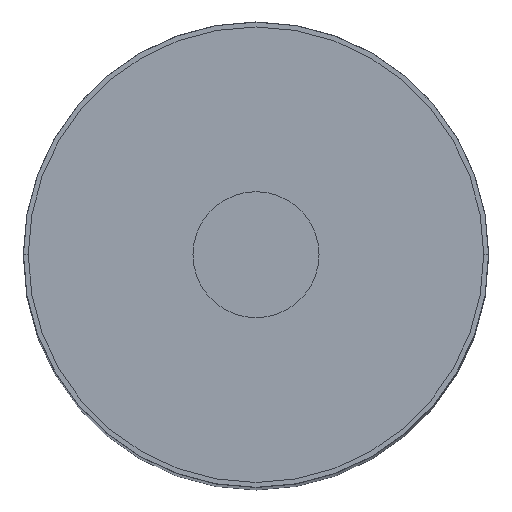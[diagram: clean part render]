
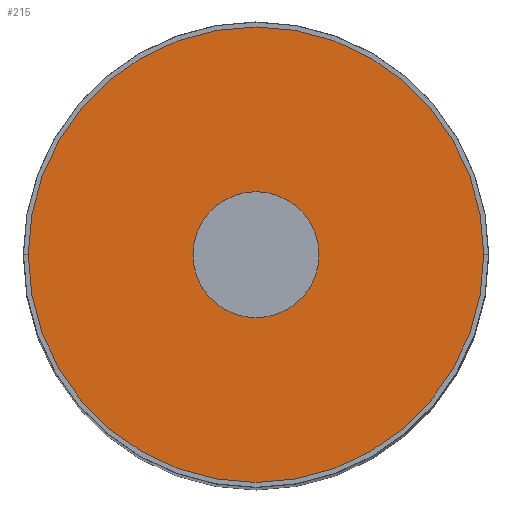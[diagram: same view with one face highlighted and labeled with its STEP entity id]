
A CAD part, top view. The second image highlights one B-rep face of the part: STEP entity #215.
In plain terms, the highlighted planar face has unit normal (0, 0, 1).
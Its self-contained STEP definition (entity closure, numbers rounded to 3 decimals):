
#34 = AXIS2_PLACEMENT_3D ( 'NONE', #202, #201, #196 ) ;
#52 = AXIS2_PLACEMENT_3D ( 'NONE', #336, #288, #283 ) ;
#77 = FACE_OUTER_BOUND ( 'NONE', #519, .T. ) ;
#108 = AXIS2_PLACEMENT_3D ( 'NONE', #694, #692, #689 ) ;
#190 = VERTEX_POINT ( 'NONE', #306 ) ;
#196 = DIRECTION ( 'NONE',  ( -1., 0., 0. ) ) ;
#201 = DIRECTION ( 'NONE',  ( 0., 0., -1. ) ) ;
#202 = CARTESIAN_POINT ( 'NONE',  ( 0., 0., 160.075 ) ) ;
#215 = ADVANCED_FACE ( 'NONE', ( #77, #374 ), #710, .F. ) ;
#227 = DIRECTION ( 'NONE',  ( -1., 0., 0. ) ) ;
#228 = DIRECTION ( 'NONE',  ( 0., 0., -1. ) ) ;
#236 = CARTESIAN_POINT ( 'NONE',  ( 0., 0., 160.075 ) ) ;
#239 = CIRCLE ( 'NONE', #615, 6.5 ) ;
#243 = VERTEX_POINT ( 'NONE', #641 ) ;
#263 = CARTESIAN_POINT ( 'NONE',  ( -23.488, 0., 160.075 ) ) ;
#283 = DIRECTION ( 'NONE',  ( -1., 0., 0. ) ) ;
#288 = DIRECTION ( 'NONE',  ( 0., 0., -1. ) ) ;
#290 = CARTESIAN_POINT ( 'NONE',  ( 6.5, 0., 160.075 ) ) ;
#306 = CARTESIAN_POINT ( 'NONE',  ( -6.5, 0., 160.075 ) ) ;
#336 = CARTESIAN_POINT ( 'NONE',  ( 0., 0., 160.075 ) ) ;
#374 = FACE_BOUND ( 'NONE', #755, .T. ) ;
#384 = EDGE_CURVE ( 'NONE', #190, #542, #239, .T. ) ;
#397 = ORIENTED_EDGE ( 'NONE', *, *, #583, .T. ) ;
#443 = VERTEX_POINT ( 'NONE', #263 ) ;
#508 = ORIENTED_EDGE ( 'NONE', *, *, #527, .F. ) ;
#510 = CIRCLE ( 'NONE', #34, 23.488 ) ;
#513 = DIRECTION ( 'NONE',  ( -1., 0., 0. ) ) ;
#514 = DIRECTION ( 'NONE',  ( 0., 0., -1. ) ) ;
#517 = CARTESIAN_POINT ( 'NONE',  ( 0., 0., 160.075 ) ) ;
#519 = EDGE_LOOP ( 'NONE', ( #508, #528 ) ) ;
#527 = EDGE_CURVE ( 'NONE', #443, #243, #664, .T. ) ;
#528 = ORIENTED_EDGE ( 'NONE', *, *, #652, .F. ) ;
#538 = ORIENTED_EDGE ( 'NONE', *, *, #384, .T. ) ;
#542 = VERTEX_POINT ( 'NONE', #290 ) ;
#573 = CIRCLE ( 'NONE', #630, 6.5 ) ;
#583 = EDGE_CURVE ( 'NONE', #542, #190, #573, .T. ) ;
#615 = AXIS2_PLACEMENT_3D ( 'NONE', #517, #514, #513 ) ;
#630 = AXIS2_PLACEMENT_3D ( 'NONE', #236, #228, #227 ) ;
#641 = CARTESIAN_POINT ( 'NONE',  ( 23.488, 0., 160.075 ) ) ;
#652 = EDGE_CURVE ( 'NONE', #243, #443, #510, .T. ) ;
#664 = CIRCLE ( 'NONE', #52, 23.488 ) ;
#689 = DIRECTION ( 'NONE',  ( -1., 0., 0. ) ) ;
#692 = DIRECTION ( 'NONE',  ( 0., 0., -1. ) ) ;
#694 = CARTESIAN_POINT ( 'NONE',  ( 0., 6.5, 160.075 ) ) ;
#710 = PLANE ( 'NONE',  #108 ) ;
#755 = EDGE_LOOP ( 'NONE', ( #538, #397 ) ) ;
